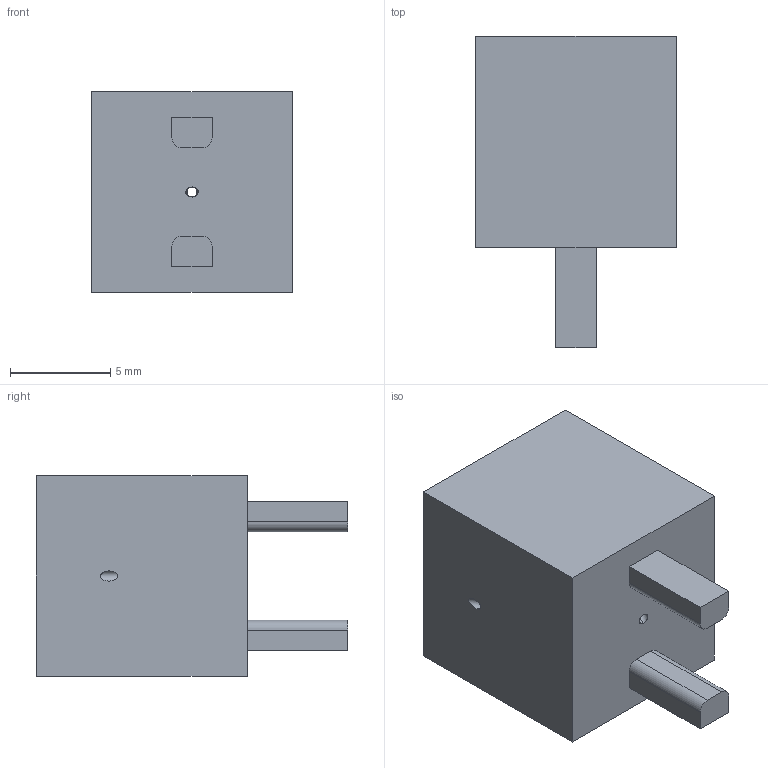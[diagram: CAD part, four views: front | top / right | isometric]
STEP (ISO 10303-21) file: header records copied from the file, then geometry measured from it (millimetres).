
FILE_DESCRIPTION(/* description */ (''),/* implementation_level */ '2;1');
FILE_NAME(/* name */ '_Supp_Fibra_400micron_inclinato_Optimized.step',/* time_stamp */ '2023-03-13T17:29:16+01:00',/* author */ (''),/* organization */ (''),/* preprocessor_version */ 'ST-DEVELOPER v19.2',/* originating_system */ 'Autodesk Translation Framework v11.17.0.187',/* authorisation */ '');
FILE_SCHEMA (('AUTOMOTIVE_DESIGN { 1 0 10303 214 3 1 1 }'));
Length unit declared in the file: millimetre
Products named in the file (1): _Supp_Fibra_400micron_inclinato_Optimized
Bounding box: 10 x 15.5 x 10 mm (x, y, z)
Volume: 1073.7 mm3; surface area: 726.1 mm2
Topology: 1 solids, 1 shells, 23 faces, 60 edges, 39 vertices
Faces by surface type: plane 16, cylinder 7
Full cylindrical faces by diameter (mm): 0.5 x3
Entity records: 752 total; most frequent: DIRECTION 125, CARTESIAN_POINT 123, ORIENTED_EDGE 120, EDGE_CURVE 60, LINE 43, VECTOR 43, AXIS2_PLACEMENT_3D 41, VERTEX_POINT 39
